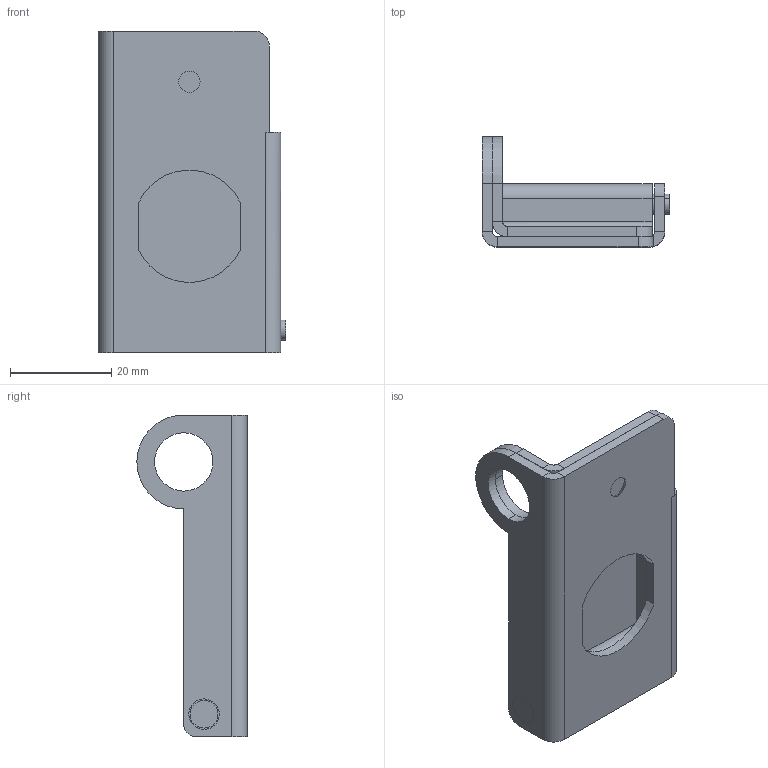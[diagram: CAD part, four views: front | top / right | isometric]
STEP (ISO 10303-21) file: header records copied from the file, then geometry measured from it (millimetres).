
FILE_DESCRIPTION (( 'STEP AP214' ), '1' );
FILE_NAME ('2.901.001.STEP', '2010-02-18T18:01:38', ( 'abc' ), ( '' ), 'SwSTEP 2.0', 'SolidWorks 2004231', '' );
FILE_SCHEMA (( 'AUTOMOTIVE_DESIGN' ));
Length unit declared in the file: millimetre
Products named in the file (4): 2.901.001.03_Domyœlna; 2.901.001; 2.901.001.01_Domyœlna; 2.901.001.02_Domyœlna
Assembly tree (3 placements, depth 2):
  2.901.001
    2.901.001.02_Domyœlna
    2.901.001.01_Domyœlna
    2.901.001.03_Domyœlna
Bounding box: 37 x 21.75 x 63.5 mm (x, y, z)
Volume: 11623.1 mm3; surface area: 13045.9 mm2
Topology: 3 solids, 3 shells, 91 faces, 209 edges, 124 vertices
Faces by surface type: plane 52, cylinder 31, cone 8
Entity records: 2674 total; most frequent: DIRECTION 475, CARTESIAN_POINT 436, ORIENTED_EDGE 418, EDGE_CURVE 209, AXIS2_PLACEMENT_3D 171, LINE 133, VECTOR 133, VERTEX_POINT 124
